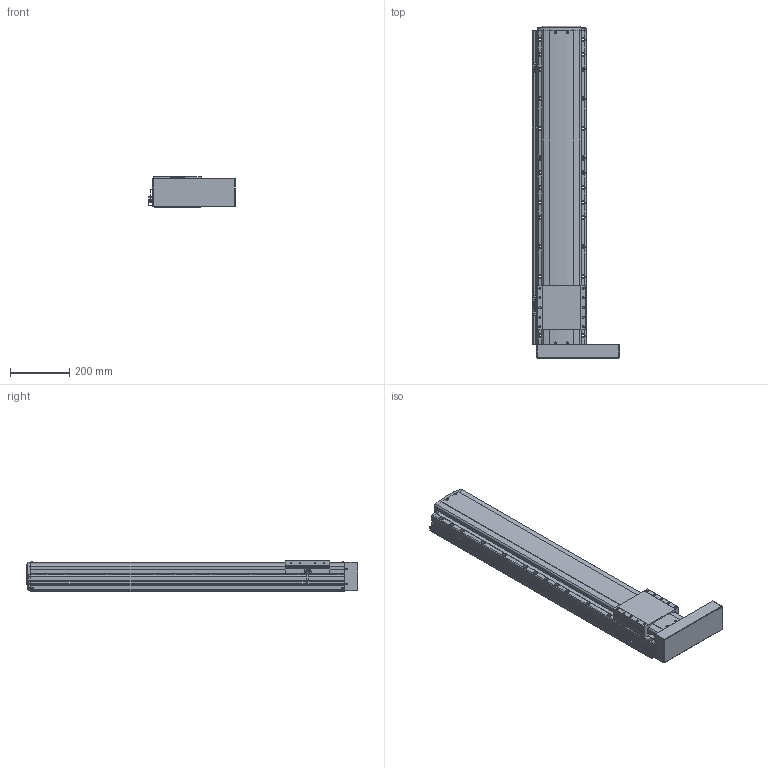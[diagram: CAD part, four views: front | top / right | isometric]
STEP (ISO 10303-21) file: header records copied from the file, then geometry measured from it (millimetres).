
FILE_DESCRIPTION(('STEP AP214'),'1');
FILE_NAME('Z:/Web/3D/PSA165/STP/PSA165-800 (3D)/PSA165ㅁㅁ-800PR+3SL.stp','2014-06-23T11:56:48',(' '),(' '),'Spatial InterOp 3D',' ',' ');
FILE_SCHEMA(('automotive_design'));
Length unit declared in the file: millimetre
Products named in the file (41): 스크루 : Round - M4.0 x 12.0; RRCV-PA160; BASE; 스크루 : Round - M4.0 x 10.0; RN15; Screw 20; SLIDE; FRCV; MTPL; 스크루 : Round - M3.0 x 6.0; M3.0 x 6.0; SRL-16x17-360L; SGD-SAN150; EE-SX674; SBK-SX674-352; BHCS M4.0 x 10.0
Bounding box: 294.46 x 1120.8 x 104 mm (x, y, z)
Volume: 16120137.6 mm3; surface area: 1147762.9 mm2
Topology: 41 solids, 41 shells, 2580 faces, 6917 edges, 4437 vertices
Faces by surface type: plane 1459, cylinder 791, cone 225, sphere 64, bspline 25, torus 16
Entity records: 104713 total; most frequent: CARTESIAN_POINT 18153, DIRECTION 13775, ORIENTED_EDGE 13526, EDGE_CURVE 6763, AXIS2_PLACEMENT_3D 4633, LINE 4509, VECTOR 4509, VERTEX_POINT 4437
